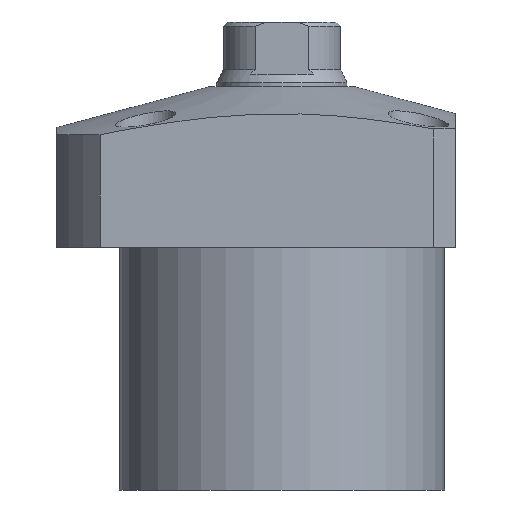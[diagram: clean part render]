
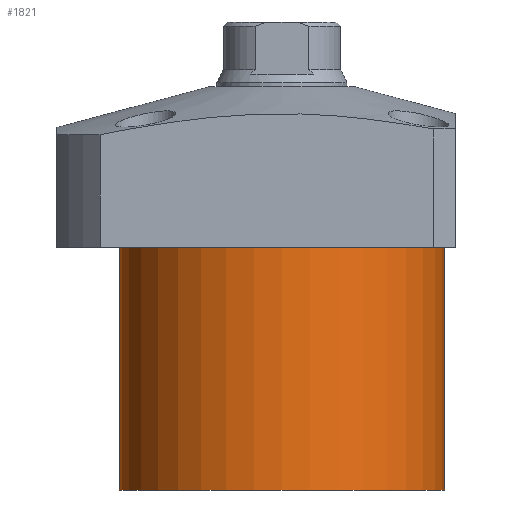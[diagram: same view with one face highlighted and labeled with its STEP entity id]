
A CAD part, front view. The second image highlights one B-rep face of the part: STEP entity #1821.
In plain terms, the highlighted cylindrical face has radius 37.5 mm (diameter 75 mm), a partial arc.
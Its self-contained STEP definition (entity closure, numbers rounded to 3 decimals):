
#8 = ORIENTED_EDGE ( 'NONE', *, *, #2195, .T. ) ;
#22 = LINE ( 'NONE', #569, #1656 ) ;
#42 = AXIS2_PLACEMENT_3D ( 'NONE', #925, #1906, #1517 ) ;
#174 = DIRECTION ( 'NONE',  ( 0., 0., 1. ) ) ;
#255 = ORIENTED_EDGE ( 'NONE', *, *, #446, .T. ) ;
#338 = VERTEX_POINT ( 'NONE', #506 ) ;
#350 = EDGE_CURVE ( 'NONE', #354, #338, #708, .T. ) ;
#354 = VERTEX_POINT ( 'NONE', #898 ) ;
#425 = DIRECTION ( 'NONE',  ( 1., 0., 0. ) ) ;
#445 = CARTESIAN_POINT ( 'NONE',  ( 0., 0., -18.5 ) ) ;
#446 = EDGE_CURVE ( 'NONE', #354, #2378, #1896, .T. ) ;
#506 = CARTESIAN_POINT ( 'NONE',  ( -37.5, 0., -74.5 ) ) ;
#569 = CARTESIAN_POINT ( 'NONE',  ( -37.5, 0., -74.5 ) ) ;
#701 = AXIS2_PLACEMENT_3D ( 'NONE', #1879, #2494, #2076 ) ;
#708 = CIRCLE ( 'NONE', #701, 37.5 ) ;
#805 = CYLINDRICAL_SURFACE ( 'NONE', #42, 37.5 ) ;
#826 = CARTESIAN_POINT ( 'NONE',  ( -37.5, 0., -18.5 ) ) ;
#898 = CARTESIAN_POINT ( 'NONE',  ( 37.5, 0., -74.5 ) ) ;
#904 = CIRCLE ( 'NONE', #1612, 37.5 ) ;
#925 = CARTESIAN_POINT ( 'NONE',  ( 0., 0., -74.5 ) ) ;
#1184 = VECTOR ( 'NONE', #174, 1000. ) ;
#1410 = DIRECTION ( 'NONE',  ( 0., 0., -1. ) ) ;
#1466 = FACE_OUTER_BOUND ( 'NONE', #1693, .T. ) ;
#1517 = DIRECTION ( 'NONE',  ( 1., 0., 0. ) ) ;
#1612 = AXIS2_PLACEMENT_3D ( 'NONE', #445, #1410, #425 ) ;
#1654 = VERTEX_POINT ( 'NONE', #826 ) ;
#1656 = VECTOR ( 'NONE', #2095, 1000. ) ;
#1680 = CARTESIAN_POINT ( 'NONE',  ( 37.5, 0., -74.5 ) ) ;
#1693 = EDGE_LOOP ( 'NONE', ( #1819, #2222, #255, #8 ) ) ;
#1819 = ORIENTED_EDGE ( 'NONE', *, *, #2530, .F. ) ;
#1821 = ADVANCED_FACE ( 'NONE', ( #1466 ), #805, .T. ) ;
#1879 = CARTESIAN_POINT ( 'NONE',  ( 0., 0., -74.5 ) ) ;
#1896 = LINE ( 'NONE', #1680, #1184 ) ;
#1906 = DIRECTION ( 'NONE',  ( 0., 0., 1. ) ) ;
#2074 = CARTESIAN_POINT ( 'NONE',  ( 37.5, 0., -18.5 ) ) ;
#2076 = DIRECTION ( 'NONE',  ( -1., 0., 0. ) ) ;
#2095 = DIRECTION ( 'NONE',  ( 0., 0., 1. ) ) ;
#2195 = EDGE_CURVE ( 'NONE', #2378, #1654, #904, .T. ) ;
#2222 = ORIENTED_EDGE ( 'NONE', *, *, #350, .F. ) ;
#2378 = VERTEX_POINT ( 'NONE', #2074 ) ;
#2494 = DIRECTION ( 'NONE',  ( 0., 0., -1. ) ) ;
#2530 = EDGE_CURVE ( 'NONE', #338, #1654, #22, .T. ) ;
